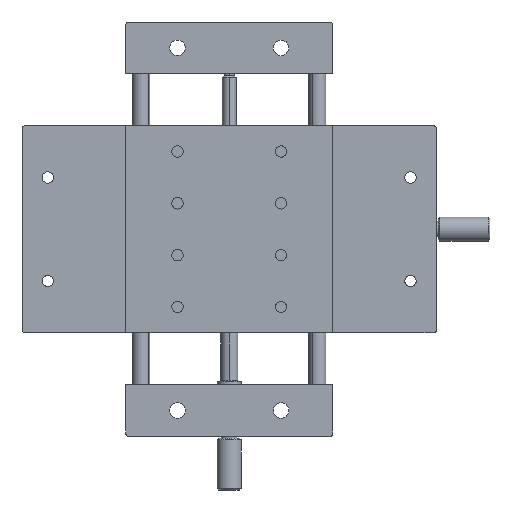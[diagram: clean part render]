
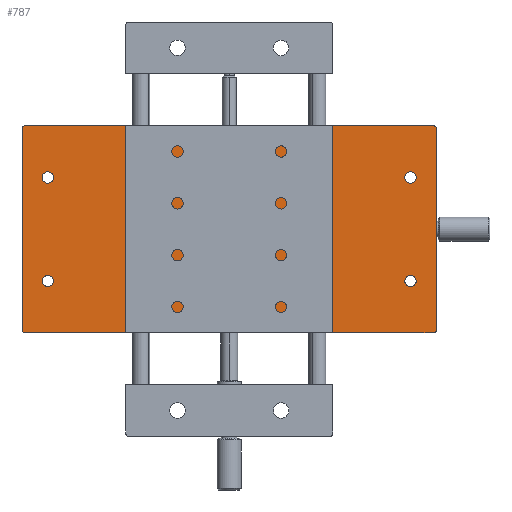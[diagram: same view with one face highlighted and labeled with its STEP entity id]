
A CAD part, front view. The second image highlights one B-rep face of the part: STEP entity #787.
In plain terms, the highlighted planar face has unit normal (0, -1, 0).
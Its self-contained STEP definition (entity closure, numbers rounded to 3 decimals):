
#62 = CARTESIAN_POINT ( 'NONE',  ( 36.702, -5.898, -8.383 ) ) ;
#121 = CARTESIAN_POINT ( 'NONE',  ( -68.298, -5.898, -6.733 ) ) ;
#125 = DIRECTION ( 'NONE',  ( 1., 0., 0. ) ) ;
#315 = DIRECTION ( 'NONE',  ( 0., 1., 0. ) ) ;
#780 = PLANE ( 'NONE',  #18681 ) ;
#787 = ADVANCED_FACE ( 'NONE', ( #26804, #9505, #21061, #10177, #15284 ), #780, .F. ) ;
#858 = AXIS2_PLACEMENT_3D ( 'NONE', #23251, #10304, #25443 ) ;
#885 = CARTESIAN_POINT ( 'NONE',  ( 36.702, -5.898, 24.917 ) ) ;
#1320 = ORIENTED_EDGE ( 'NONE', *, *, #15311, .F. ) ;
#1489 = EDGE_CURVE ( 'NONE', #3083, #14242, #25384, .T. ) ;
#1529 = ORIENTED_EDGE ( 'NONE', *, *, #7936, .T. ) ;
#1815 = CARTESIAN_POINT ( 'NONE',  ( -74.798, -5.898, -21.733 ) ) ;
#2161 = DIRECTION ( 'NONE',  ( 0., 1., 0. ) ) ;
#2302 = DIRECTION ( 'NONE',  ( 0., 0., 1. ) ) ;
#2352 = CARTESIAN_POINT ( 'NONE',  ( -75.798, -5.898, 38.267 ) ) ;
#2430 = ORIENTED_EDGE ( 'NONE', *, *, #22452, .T. ) ;
#2578 = CARTESIAN_POINT ( 'NONE',  ( 36.702, -5.898, 23.267 ) ) ;
#2708 = VECTOR ( 'NONE', #6797, 1000. ) ;
#3083 = VERTEX_POINT ( 'NONE', #12284 ) ;
#3197 = CARTESIAN_POINT ( 'NONE',  ( 43.202, -5.898, 38.267 ) ) ;
#3394 = CIRCLE ( 'NONE', #21744, 1.65 ) ;
#3557 = VERTEX_POINT ( 'NONE', #26607 ) ;
#3708 = VERTEX_POINT ( 'NONE', #19790 ) ;
#3904 = ORIENTED_EDGE ( 'NONE', *, *, #13935, .T. ) ;
#4091 = ORIENTED_EDGE ( 'NONE', *, *, #13717, .T. ) ;
#4264 = CIRCLE ( 'NONE', #6416, 1.65 ) ;
#4289 = VECTOR ( 'NONE', #16087, 1000. ) ;
#4522 = VECTOR ( 'NONE', #125, 1000. ) ;
#4595 = EDGE_LOOP ( 'NONE', ( #23652, #18172 ) ) ;
#4619 = ORIENTED_EDGE ( 'NONE', *, *, #22656, .T. ) ;
#4737 = DIRECTION ( 'NONE',  ( 0., 0., 1. ) ) ;
#5265 = EDGE_LOOP ( 'NONE', ( #1529, #8205 ) ) ;
#5614 = ORIENTED_EDGE ( 'NONE', *, *, #23032, .T. ) ;
#6057 = EDGE_CURVE ( 'NONE', #16273, #20563, #26557, .T. ) ;
#6275 = CARTESIAN_POINT ( 'NONE',  ( 36.702, -5.898, -5.083 ) ) ;
#6416 = AXIS2_PLACEMENT_3D ( 'NONE', #24465, #11545, #26717 ) ;
#6629 = EDGE_CURVE ( 'NONE', #19021, #17868, #20791, .T. ) ;
#6797 = DIRECTION ( 'NONE',  ( -1., 0., 0. ) ) ;
#7688 = VERTEX_POINT ( 'NONE', #16635 ) ;
#7815 = DIRECTION ( 'NONE',  ( 0., 1., 0. ) ) ;
#7936 = EDGE_CURVE ( 'NONE', #18848, #3557, #19043, .T. ) ;
#8119 = ORIENTED_EDGE ( 'NONE', *, *, #1489, .T. ) ;
#8205 = ORIENTED_EDGE ( 'NONE', *, *, #25681, .T. ) ;
#8366 = AXIS2_PLACEMENT_3D ( 'NONE', #121, #15172, #2302 ) ;
#9131 = CIRCLE ( 'NONE', #21348, 1. ) ;
#9505 = FACE_BOUND ( 'NONE', #4595, .T. ) ;
#9824 = DIRECTION ( 'NONE',  ( 0., -1., 0. ) ) ;
#9852 = ORIENTED_EDGE ( 'NONE', *, *, #10267, .F. ) ;
#10133 = CARTESIAN_POINT ( 'NONE',  ( -75.798, -5.898, -21.733 ) ) ;
#10177 = FACE_BOUND ( 'NONE', #5265, .T. ) ;
#10213 = DIRECTION ( 'NONE',  ( 0., 0., 1. ) ) ;
#10267 = EDGE_CURVE ( 'NONE', #22880, #14242, #19889, .T. ) ;
#10304 = DIRECTION ( 'NONE',  ( 0., -1., 0. ) ) ;
#10345 = DIRECTION ( 'NONE',  ( 0., 1., 0. ) ) ;
#10402 = DIRECTION ( 'NONE',  ( 0., -1., 0. ) ) ;
#11172 = AXIS2_PLACEMENT_3D ( 'NONE', #13194, #315, #15388 ) ;
#11545 = DIRECTION ( 'NONE',  ( 0., 1., 0. ) ) ;
#11569 = DIRECTION ( 'NONE',  ( 0., 1., 0. ) ) ;
#11615 = EDGE_LOOP ( 'NONE', ( #27861, #8119, #9852, #18433, #23872, #5614, #1320, #2430 ) ) ;
#12225 = CARTESIAN_POINT ( 'NONE',  ( 43.202, -5.898, -20.733 ) ) ;
#12284 = CARTESIAN_POINT ( 'NONE',  ( -75.798, -5.898, -20.733 ) ) ;
#12307 = CARTESIAN_POINT ( 'NONE',  ( -74.798, -5.898, -20.733 ) ) ;
#13091 = EDGE_CURVE ( 'NONE', #3083, #7688, #25523, .T. ) ;
#13194 = CARTESIAN_POINT ( 'NONE',  ( -68.298, -5.898, 23.267 ) ) ;
#13717 = EDGE_CURVE ( 'NONE', #17019, #17640, #14011, .T. ) ;
#13935 = EDGE_CURVE ( 'NONE', #17640, #17019, #4264, .T. ) ;
#14011 = CIRCLE ( 'NONE', #8366, 1.65 ) ;
#14036 = VECTOR ( 'NONE', #27527, 1000. ) ;
#14242 = VERTEX_POINT ( 'NONE', #1815 ) ;
#14409 = AXIS2_PLACEMENT_3D ( 'NONE', #20789, #7815, #22915 ) ;
#14414 = DIRECTION ( 'NONE',  ( 0., 0., 1. ) ) ;
#14682 = CIRCLE ( 'NONE', #14409, 1.65 ) ;
#14908 = AXIS2_PLACEMENT_3D ( 'NONE', #22777, #9824, #24942 ) ;
#15028 = CARTESIAN_POINT ( 'NONE',  ( 36.702, -5.898, 23.267 ) ) ;
#15172 = DIRECTION ( 'NONE',  ( 0., 1., 0. ) ) ;
#15176 = CARTESIAN_POINT ( 'NONE',  ( -75.798, -5.898, 38.267 ) ) ;
#15193 = CARTESIAN_POINT ( 'NONE',  ( -68.298, -5.898, -5.083 ) ) ;
#15284 = FACE_OUTER_BOUND ( 'NONE', #11615, .T. ) ;
#15293 = LINE ( 'NONE', #15176, #4522 ) ;
#15311 = EDGE_CURVE ( 'NONE', #3708, #24726, #15293, .T. ) ;
#15388 = DIRECTION ( 'NONE',  ( 0., 0., 1. ) ) ;
#15729 = CARTESIAN_POINT ( 'NONE',  ( -68.298, -5.898, -8.383 ) ) ;
#15751 = VERTEX_POINT ( 'NONE', #885 ) ;
#16087 = DIRECTION ( 'NONE',  ( 0., 0., -1. ) ) ;
#16161 = AXIS2_PLACEMENT_3D ( 'NONE', #12307, #10402, #10213 ) ;
#16273 = VERTEX_POINT ( 'NONE', #16475 ) ;
#16390 = CARTESIAN_POINT ( 'NONE',  ( 43.202, -5.898, -21.733 ) ) ;
#16475 = CARTESIAN_POINT ( 'NONE',  ( 44.202, -5.898, 37.267 ) ) ;
#16492 = CARTESIAN_POINT ( 'NONE',  ( 44.202, -5.898, -21.733 ) ) ;
#16635 = CARTESIAN_POINT ( 'NONE',  ( -75.798, -5.898, 37.267 ) ) ;
#16884 = VERTEX_POINT ( 'NONE', #21000 ) ;
#17019 = VERTEX_POINT ( 'NONE', #15193 ) ;
#17179 = DIRECTION ( 'NONE',  ( 0., 0., 1. ) ) ;
#17602 = DIRECTION ( 'NONE',  ( 0., 1., 0. ) ) ;
#17640 = VERTEX_POINT ( 'NONE', #15729 ) ;
#17868 = VERTEX_POINT ( 'NONE', #6275 ) ;
#18172 = ORIENTED_EDGE ( 'NONE', *, *, #6629, .T. ) ;
#18433 = ORIENTED_EDGE ( 'NONE', *, *, #27882, .T. ) ;
#18681 = AXIS2_PLACEMENT_3D ( 'NONE', #2352, #27593, #27502 ) ;
#18800 = CARTESIAN_POINT ( 'NONE',  ( -68.298, -5.898, 24.917 ) ) ;
#18848 = VERTEX_POINT ( 'NONE', #18800 ) ;
#18970 = EDGE_CURVE ( 'NONE', #16884, #15751, #3394, .T. ) ;
#19021 = VERTEX_POINT ( 'NONE', #62 ) ;
#19043 = CIRCLE ( 'NONE', #11172, 1.65 ) ;
#19088 = EDGE_LOOP ( 'NONE', ( #4091, #3904 ) ) ;
#19197 = AXIS2_PLACEMENT_3D ( 'NONE', #23293, #10345, #25484 ) ;
#19517 = EDGE_CURVE ( 'NONE', #17868, #19021, #21257, .T. ) ;
#19790 = CARTESIAN_POINT ( 'NONE',  ( -74.798, -5.898, 38.267 ) ) ;
#19889 = LINE ( 'NONE', #26167, #2708 ) ;
#20103 = CIRCLE ( 'NONE', #858, 1. ) ;
#20563 = VERTEX_POINT ( 'NONE', #25536 ) ;
#20622 = AXIS2_PLACEMENT_3D ( 'NONE', #24491, #11569, #26738 ) ;
#20789 = CARTESIAN_POINT ( 'NONE',  ( -68.298, -5.898, 23.267 ) ) ;
#20791 = CIRCLE ( 'NONE', #20622, 1.65 ) ;
#21000 = CARTESIAN_POINT ( 'NONE',  ( 36.702, -5.898, 21.617 ) ) ;
#21061 = FACE_BOUND ( 'NONE', #19088, .T. ) ;
#21257 = CIRCLE ( 'NONE', #19197, 1.65 ) ;
#21348 = AXIS2_PLACEMENT_3D ( 'NONE', #12225, #27409, #14414 ) ;
#21744 = AXIS2_PLACEMENT_3D ( 'NONE', #15028, #2161, #17179 ) ;
#21882 = ORIENTED_EDGE ( 'NONE', *, *, #18970, .T. ) ;
#22452 = EDGE_CURVE ( 'NONE', #3708, #7688, #25476, .T. ) ;
#22656 = EDGE_CURVE ( 'NONE', #15751, #16884, #27919, .T. ) ;
#22777 = CARTESIAN_POINT ( 'NONE',  ( -74.798, -5.898, 37.267 ) ) ;
#22880 = VERTEX_POINT ( 'NONE', #16390 ) ;
#22915 = DIRECTION ( 'NONE',  ( 0., 0., 1. ) ) ;
#23032 = EDGE_CURVE ( 'NONE', #16273, #24726, #20103, .T. ) ;
#23251 = CARTESIAN_POINT ( 'NONE',  ( 43.202, -5.898, 37.267 ) ) ;
#23293 = CARTESIAN_POINT ( 'NONE',  ( 36.702, -5.898, -6.733 ) ) ;
#23652 = ORIENTED_EDGE ( 'NONE', *, *, #19517, .T. ) ;
#23872 = ORIENTED_EDGE ( 'NONE', *, *, #6057, .F. ) ;
#24465 = CARTESIAN_POINT ( 'NONE',  ( -68.298, -5.898, -6.733 ) ) ;
#24491 = CARTESIAN_POINT ( 'NONE',  ( 36.702, -5.898, -6.733 ) ) ;
#24726 = VERTEX_POINT ( 'NONE', #3197 ) ;
#24942 = DIRECTION ( 'NONE',  ( 0., 0., 1. ) ) ;
#25384 = CIRCLE ( 'NONE', #16161, 1. ) ;
#25443 = DIRECTION ( 'NONE',  ( 0., 0., 1. ) ) ;
#25476 = CIRCLE ( 'NONE', #14908, 1. ) ;
#25484 = DIRECTION ( 'NONE',  ( 0., 0., 1. ) ) ;
#25523 = LINE ( 'NONE', #10133, #14036 ) ;
#25536 = CARTESIAN_POINT ( 'NONE',  ( 44.202, -5.898, -20.733 ) ) ;
#25681 = EDGE_CURVE ( 'NONE', #3557, #18848, #14682, .T. ) ;
#26167 = CARTESIAN_POINT ( 'NONE',  ( -75.798, -5.898, -21.733 ) ) ;
#26557 = LINE ( 'NONE', #16492, #4289 ) ;
#26607 = CARTESIAN_POINT ( 'NONE',  ( -68.298, -5.898, 21.617 ) ) ;
#26717 = DIRECTION ( 'NONE',  ( 0., 0., 1. ) ) ;
#26738 = DIRECTION ( 'NONE',  ( 0., 0., 1. ) ) ;
#26804 = FACE_BOUND ( 'NONE', #26862, .T. ) ;
#26862 = EDGE_LOOP ( 'NONE', ( #4619, #21882 ) ) ;
#27409 = DIRECTION ( 'NONE',  ( 0., -1., 0. ) ) ;
#27502 = DIRECTION ( 'NONE',  ( 0., 0., 1. ) ) ;
#27527 = DIRECTION ( 'NONE',  ( 0., 0., 1. ) ) ;
#27593 = DIRECTION ( 'NONE',  ( 0., 1., 0. ) ) ;
#27861 = ORIENTED_EDGE ( 'NONE', *, *, #13091, .F. ) ;
#27882 = EDGE_CURVE ( 'NONE', #22880, #20563, #9131, .T. ) ;
#27919 = CIRCLE ( 'NONE', #28011, 1.65 ) ;
#28011 = AXIS2_PLACEMENT_3D ( 'NONE', #2578, #17602, #4737 ) ;
